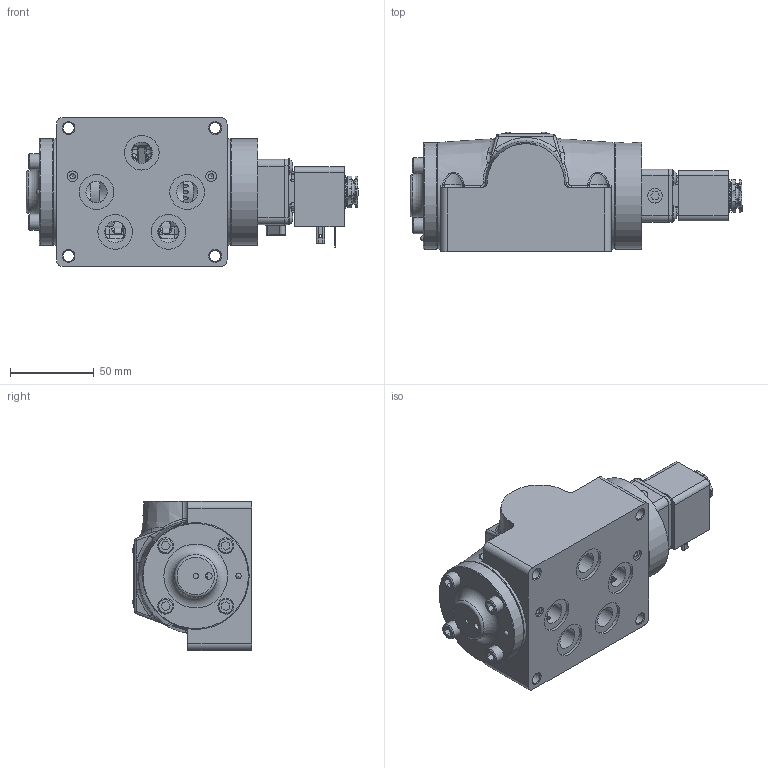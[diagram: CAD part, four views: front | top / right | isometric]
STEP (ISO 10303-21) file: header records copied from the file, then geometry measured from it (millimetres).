
FILE_DESCRIPTION(/* description */ (''),/* implementation_level */ '2;1');
FILE_NAME(/* name */ 'ESO4PHOCZ.stp',/* time_stamp */ '2026-07-15T06:14:50-04:00',/* author */ ('rmckenna'),/* organization */ (''),/* preprocessor_version */ 'ST-DEVELOPER v20.1',/* originating_system */ 'Autodesk Inventor 2026',/* authorisation */ '');
FILE_SCHEMA (('AUTOMOTIVE_DESIGN { 1 0 10303 214 3 1 1 }'));
Products named in the file (1): Part7
Bounding box: 197.84 x 71.21 x 88.9 mm (x, y, z)
Volume: 569010.3 mm3; surface area: 134807 mm2
Topology: 1 solids, 32 shells, 2234 faces, 5544 edges, 3442 vertices
Faces by surface type: plane 811, cylinder 587, bspline 333, cone 325, torus 155, sphere 23
Full cylindrical faces by diameter (mm): 1.168 x10, 1.3 x1, 1.397 x1, 1.5 x1, 1.651 x2, 2.032 x8, 2.07 x2, 2.261 x2, 2.35 x4, 2.388 x1, 2.5 x2, 2.778 x2, 2.8 x1, 3 x4, 3.048 x5, 3.175 x5, 3.4 x1, 3.683 x5, 3.969 x1, 4.191 x2, 4.826 x4, 4.978 x8, 5.15 x4, 5.156 x4, 5.5 x1, 5.556 x1, 6.35 x10, 6.629 x4, 6.65 x1, 6.747 x4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
Entity records: 85950 total; most frequent: CARTESIAN_POINT 32617, ORIENTED_EDGE 11004, DIRECTION 9857, EDGE_CURVE 5502, AXIS2_PLACEMENT_3D 3717, VERTEX_POINT 3441, EDGE_LOOP 2493, LINE 2423
